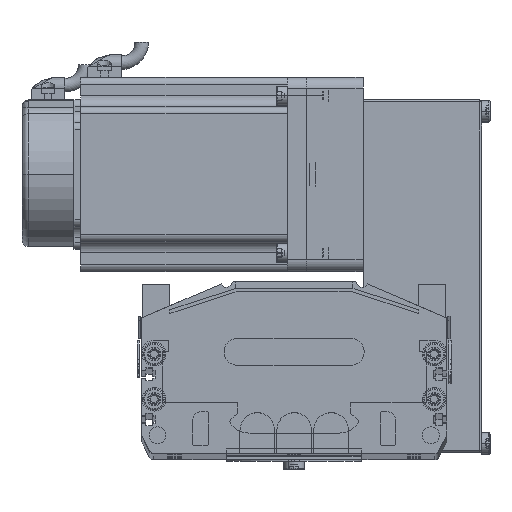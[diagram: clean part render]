
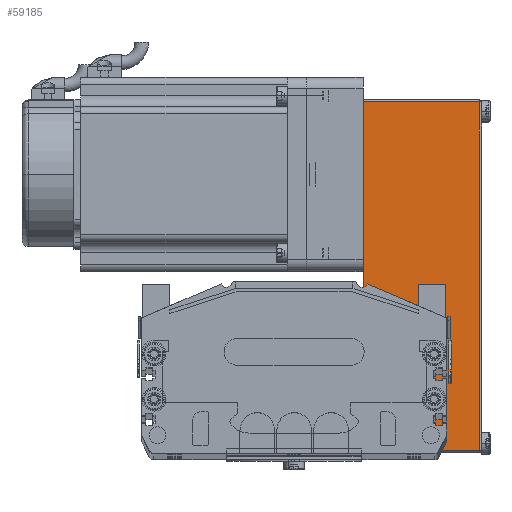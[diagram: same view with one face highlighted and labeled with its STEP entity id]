
A CAD part, top view. The second image highlights one B-rep face of the part: STEP entity #59185.
In plain terms, the highlighted planar face has unit normal (0, 0, 1) as drawn and (0, -1, 0) by its records, which use the part's own axes.
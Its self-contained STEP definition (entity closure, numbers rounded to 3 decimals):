
#11118 = DIRECTION ( 'NONE',  ( 0., 0., -1. ) ) ;
#11119 = VECTOR ( 'NONE', #11118, 1000. ) ;
#11121 = CARTESIAN_POINT ( 'NONE',  ( -123.2, -40., 52.5 ) ) ;
#11122 = LINE ( 'NONE', #11121, #11119 ) ;
#11190 = CARTESIAN_POINT ( 'NONE',  ( -123.2, -40., 51.5 ) ) ;
#11283 = DIRECTION ( 'NONE',  ( 0., 0., 1. ) ) ;
#11284 = VECTOR ( 'NONE', #11283, 1000. ) ;
#11285 = DIRECTION ( 'NONE',  ( -1., 0., 0. ) ) ;
#11286 = DIRECTION ( 'NONE',  ( 0., 1., 0. ) ) ;
#11287 = CARTESIAN_POINT ( 'NONE',  ( 32., -40., 52.5 ) ) ;
#11295 = CARTESIAN_POINT ( 'NONE',  ( -123.2, -40., 0. ) ) ;
#11296 = AXIS2_PLACEMENT_3D ( 'NONE', #11287, #11286, #11285 ) ;
#11313 = CARTESIAN_POINT ( 'NONE',  ( 31., -40., 0. ) ) ;
#11314 = FACE_OUTER_BOUND ( 'NONE', #59126, .T. ) ;
#11319 = PLANE ( 'NONE',  #11296 ) ;
#11321 = CARTESIAN_POINT ( 'NONE',  ( 31., -40., 52.5 ) ) ;
#11322 = LINE ( 'NONE', #11321, #11284 ) ;
#43829 = VECTOR ( 'NONE', #44312, 1000. ) ;
#43894 = LINE ( 'NONE', #44071, #43829 ) ;
#44045 = CARTESIAN_POINT ( 'NONE',  ( 31., -40., 51.5 ) ) ;
#44071 = CARTESIAN_POINT ( 'NONE',  ( 32., -40., 51.5 ) ) ;
#44312 = DIRECTION ( 'NONE',  ( -1., 0., 0. ) ) ;
#45649 = VECTOR ( 'NONE', #45820, 1000. ) ;
#45820 = DIRECTION ( 'NONE',  ( 1., 0., 0. ) ) ;
#45821 = CARTESIAN_POINT ( 'NONE',  ( 32., -40., 0. ) ) ;
#45872 = LINE ( 'NONE', #45821, #45649 ) ;
#59126 = EDGE_LOOP ( 'NONE', ( #59147, #59189, #59313, #59258 ) ) ;
#59138 = EDGE_CURVE ( 'NONE', #59155, #59175, #11122, .T. ) ;
#59147 = ORIENTED_EDGE ( 'NONE', *, *, #59266, .T. ) ;
#59155 = VERTEX_POINT ( 'NONE', #11190 ) ;
#59174 = VERTEX_POINT ( 'NONE', #11313 ) ;
#59175 = VERTEX_POINT ( 'NONE', #11295 ) ;
#59185 = ADVANCED_FACE ( 'NONE', ( #11314 ), #11319, .F. ) ;
#59186 = EDGE_CURVE ( 'NONE', #59174, #59216, #11322, .T. ) ;
#59189 = ORIENTED_EDGE ( 'NONE', *, *, #59186, .T. ) ;
#59215 = EDGE_CURVE ( 'NONE', #59216, #59155, #43894, .T. ) ;
#59216 = VERTEX_POINT ( 'NONE', #44045 ) ;
#59258 = ORIENTED_EDGE ( 'NONE', *, *, #59138, .T. ) ;
#59266 = EDGE_CURVE ( 'NONE', #59175, #59174, #45872, .T. ) ;
#59313 = ORIENTED_EDGE ( 'NONE', *, *, #59215, .T. ) ;
